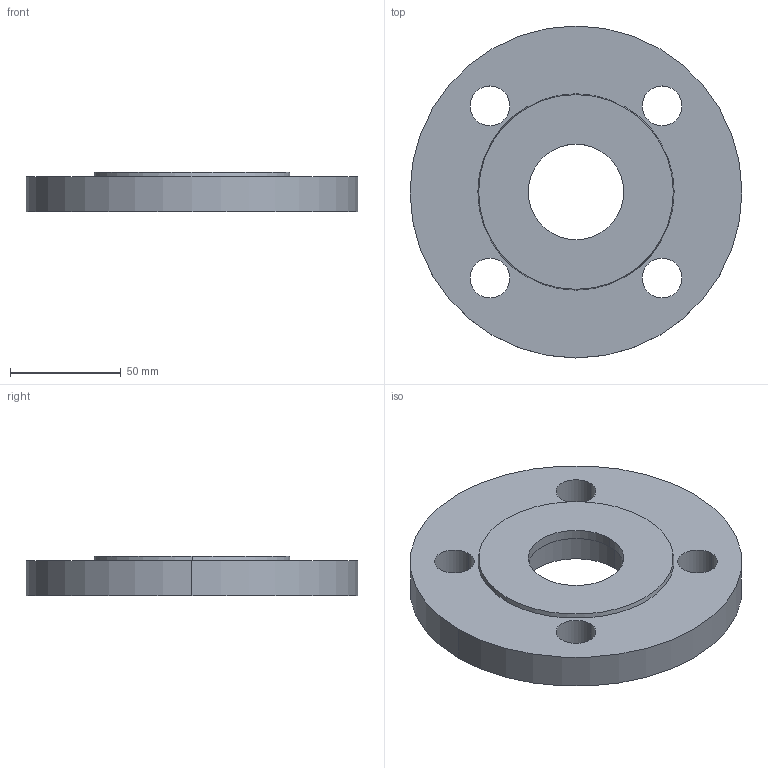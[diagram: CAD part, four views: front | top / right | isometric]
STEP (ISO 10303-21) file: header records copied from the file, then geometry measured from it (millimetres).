
FILE_DESCRIPTION (( 'STEP AP214' ), '1' );
FILE_NAME ('PN40 DN40 Type 05 - Socket (Type B) - Not in Standard.STEP', '2018-12-30T02:29:59', ( '' ), ( '' ), 'SwSTEP 2.0', 'SolidWorks 2019', '' );
FILE_SCHEMA (( 'AUTOMOTIVE_DESIGN' ));
Length unit declared in the file: millimetre
Products named in the file (1): PN40 DN40 Type 05 - Socket (Type B) - Not in Standard
Bounding box: 150 x 150 x 18 mm (x, y, z)
Volume: 246174.3 mm3; surface area: 44722.7 mm2
Topology: 1 solids, 1 shells, 20 faces, 48 edges, 32 vertices
Faces by surface type: cylinder 14, plane 4, cone 2
Entity records: 658 total; most frequent: DIRECTION 122, CARTESIAN_POINT 101, ORIENTED_EDGE 96, AXIS2_PLACEMENT_3D 53, EDGE_CURVE 48, CIRCLE 32, VERTEX_POINT 32, EDGE_LOOP 32
